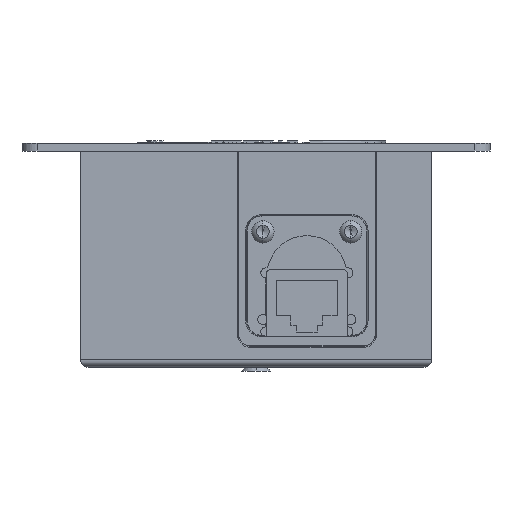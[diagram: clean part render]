
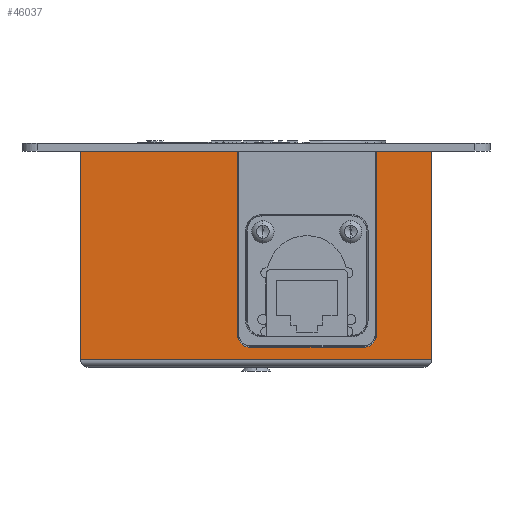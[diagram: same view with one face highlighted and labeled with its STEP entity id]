
A CAD part, front view. The second image highlights one B-rep face of the part: STEP entity #46037.
In plain terms, the highlighted planar face has unit normal (0, -1, 0).
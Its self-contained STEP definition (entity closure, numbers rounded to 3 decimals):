
#121=DIRECTION('',(-1.,0.,0.));
#122=VECTOR('',#121,10.8);
#123=CARTESIAN_POINT('',(34.52,-78.323,0.));
#124=LINE('',#123,#122);
#137=DIRECTION('',(-1.,0.,0.));
#138=VECTOR('',#137,30.8);
#139=CARTESIAN_POINT('',(-3.68,-78.323,0.));
#140=LINE('',#139,#138);
#9207=DIRECTION('',(0.,0.,-1.));
#9208=VECTOR('',#9207,41.);
#9209=CARTESIAN_POINT('',(-34.48,-78.323,0.));
#9210=LINE('',#9209,#9208);
#9215=DIRECTION('',(0.,0.,-1.));
#9216=VECTOR('',#9215,41.);
#9217=CARTESIAN_POINT('',(34.52,-78.323,0.));
#9218=LINE('',#9217,#9216);
#9219=DIRECTION('',(-1.,0.,0.));
#9220=VECTOR('',#9219,69.);
#9221=CARTESIAN_POINT('',(34.52,-78.323,-41.));
#9222=LINE('',#9221,#9220);
#9223=DIRECTION('',(0.,0.,-1.));
#9224=VECTOR('',#9223,36.);
#9225=CARTESIAN_POINT('',(-3.68,-78.323,0.));
#9226=LINE('',#9225,#9224);
#9227=DIRECTION('',(1.,0.,0.));
#9228=VECTOR('',#9227,22.2);
#9229=CARTESIAN_POINT('',(-1.08,-78.323,-38.6));
#9230=LINE('',#9229,#9228);
#9231=DIRECTION('',(0.,0.,1.));
#9232=VECTOR('',#9231,36.);
#9233=CARTESIAN_POINT('',(23.72,-78.323,-36.));
#9234=LINE('',#9233,#9232);
#25861=CARTESIAN_POINT('',(21.12,-78.323,-36.));
#25862=DIRECTION('',(0.,1.,0.));
#25863=DIRECTION('',(1.,0.,0.));
#25864=AXIS2_PLACEMENT_3D('',#25861,#25862,#25863);
#25884=CARTESIAN_POINT('',(-1.08,-78.323,-36.));
#25885=DIRECTION('',(0.,1.,0.));
#25886=DIRECTION('',(0.,0.,-1.));
#25887=AXIS2_PLACEMENT_3D('',#25884,#25885,#25886);
#32797=CARTESIAN_POINT('',(34.52,-78.323,-41.));
#32799=VERTEX_POINT('',#32797);
#32806=CARTESIAN_POINT('',(-34.48,-78.323,-41.));
#32807=VERTEX_POINT('',#32806);
#32868=CARTESIAN_POINT('',(21.12,-78.323,-38.6));
#32870=VERTEX_POINT('',#32868);
#32872=CARTESIAN_POINT('',(-1.08,-78.323,-38.6));
#32874=VERTEX_POINT('',#32872);
#32876=CARTESIAN_POINT('',(23.72,-78.323,-36.));
#32877=VERTEX_POINT('',#32876);
#32878=CARTESIAN_POINT('',(-3.68,-78.323,-36.));
#32879=VERTEX_POINT('',#32878);
#32960=CARTESIAN_POINT('',(-34.48,-78.323,0.));
#32962=VERTEX_POINT('',#32960);
#32974=CARTESIAN_POINT('',(34.52,-78.323,0.));
#32975=VERTEX_POINT('',#32974);
#32976=CARTESIAN_POINT('',(23.72,-78.323,0.));
#32977=VERTEX_POINT('',#32976);
#32978=CARTESIAN_POINT('',(-3.68,-78.323,0.));
#32979=VERTEX_POINT('',#32978);
#46013=CARTESIAN_POINT('',(34.52,-78.323,0.));
#46014=DIRECTION('',(0.,-1.,0.));
#46015=DIRECTION('',(-1.,0.,0.));
#46016=AXIS2_PLACEMENT_3D('',#46013,#46014,#46015);
#46017=PLANE('',#46016);
#46018=ORIENTED_EDGE('',*,*,#33429,.F.);
#46020=ORIENTED_EDGE('',*,*,#46019,.T.);
#46022=ORIENTED_EDGE('',*,*,#46021,.T.);
#46023=ORIENTED_EDGE('',*,*,#46004,.F.);
#46024=ORIENTED_EDGE('',*,*,#33437,.F.);
#46026=ORIENTED_EDGE('',*,*,#46025,.T.);
#46028=ORIENTED_EDGE('',*,*,#46027,.F.);
#46030=ORIENTED_EDGE('',*,*,#46029,.T.);
#46032=ORIENTED_EDGE('',*,*,#46031,.F.);
#46034=ORIENTED_EDGE('',*,*,#46033,.T.);
#46035=EDGE_LOOP('',(#46018,#46020,#46022,#46023,#46024,#46026,#46028,#46030,
#46032,#46034));
#46036=FACE_OUTER_BOUND('',#46035,.F.);
#25865=CIRCLE('',#25864,2.6);
#25888=CIRCLE('',#25887,2.6);
#33429=EDGE_CURVE('',#32975,#32977,#124,.T.);
#33437=EDGE_CURVE('',#32979,#32962,#140,.T.);
#46004=EDGE_CURVE('',#32962,#32807,#9210,.T.);
#46019=EDGE_CURVE('',#32975,#32799,#9218,.T.);
#46021=EDGE_CURVE('',#32799,#32807,#9222,.T.);
#46025=EDGE_CURVE('',#32979,#32879,#9226,.T.);
#46027=EDGE_CURVE('',#32874,#32879,#25888,.T.);
#46029=EDGE_CURVE('',#32874,#32870,#9230,.T.);
#46031=EDGE_CURVE('',#32877,#32870,#25865,.T.);
#46033=EDGE_CURVE('',#32877,#32977,#9234,.T.);
#46037=ADVANCED_FACE('',(#46036),#46017,.T.);
